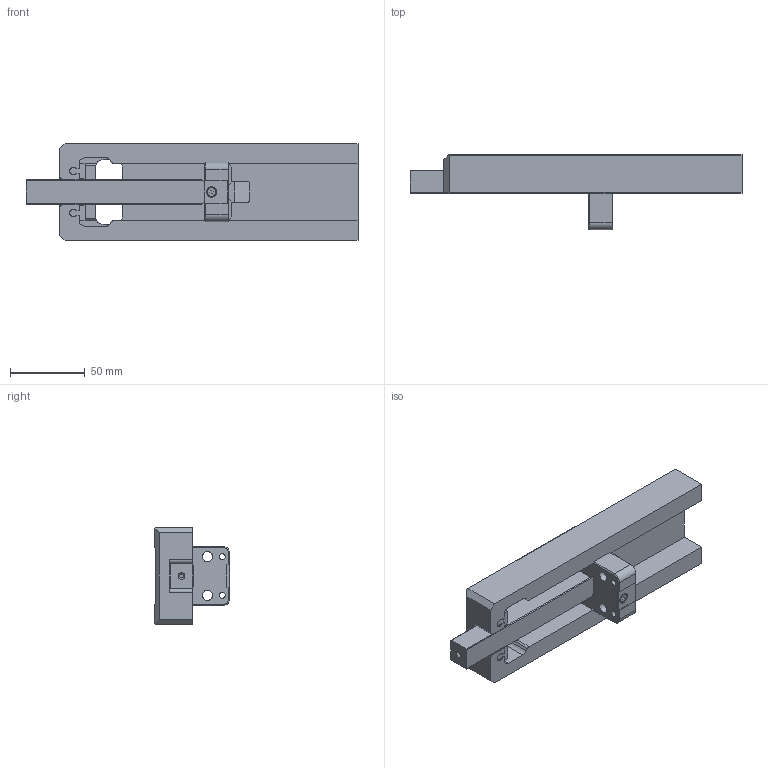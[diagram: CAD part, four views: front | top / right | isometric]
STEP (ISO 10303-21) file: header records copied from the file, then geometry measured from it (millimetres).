
FILE_DESCRIPTION (( 'STEP AP203' ), '1' );
FILE_NAME ('SA-80-200-00.step', '2015-06-16T05:09:54', ( '' ), ( '' ), 'SwSTEP 2.0', 'SolidWorks 2015', '' );
FILE_SCHEMA (( 'CONFIG_CONTROL_DESIGN' ));
Length unit declared in the file: millimetre
Products named in the file (2): SA-80-200-00
Bounding box: 222.66 x 50.7 x 65 mm (x, y, z)
Surface area: 61103.3 mm2 (no closed solid volume)
Topology: 0 solids, 9 shells, 140 faces, 527 edges, 382 vertices
Faces by surface type: plane 99, cylinder 33, cone 8
Full cylindrical faces by diameter (mm): 1.3 x2, 2.5 x1, 4 x2, 4.6 x2, 5.7 x1, 6.8 x2
Entity records: 5594 total; most frequent: CARTESIAN_POINT 1069, DIRECTION 885, ORIENTED_EDGE 822, EDGE_CURVE 511, LINE 397, VECTOR 397, VERTEX_POINT 380, AXIS2_PLACEMENT_3D 244
